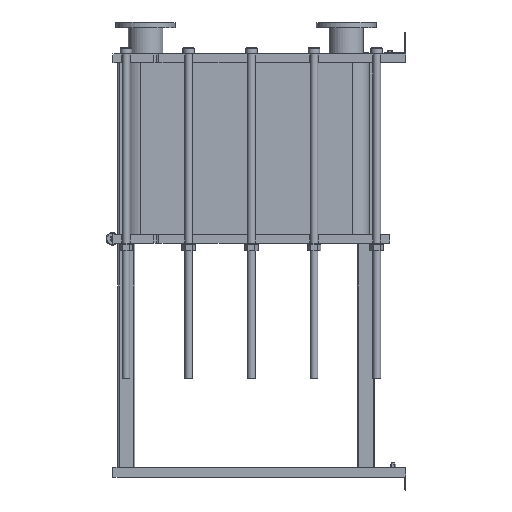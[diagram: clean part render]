
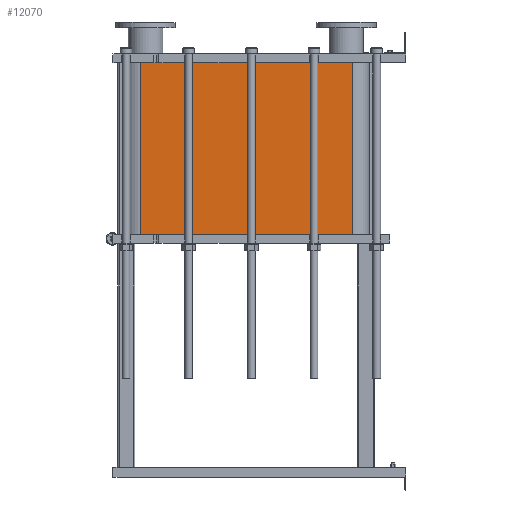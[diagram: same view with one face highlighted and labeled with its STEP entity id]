
A CAD part, left-side view. The second image highlights one B-rep face of the part: STEP entity #12070.
In plain terms, the highlighted planar face has unit normal (-1, 0, 0).
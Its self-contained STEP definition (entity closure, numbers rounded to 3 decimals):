
#1064=LINE('',#21140,#2164);
#1065=LINE('',#21144,#2165);
#1066=LINE('',#21146,#2166);
#1067=LINE('',#21147,#2167);
#2164=VECTOR('',#15790,10.);
#2165=VECTOR('',#15795,10.);
#2166=VECTOR('',#15796,10.);
#2167=VECTOR('',#15797,10.);
#3304=FACE_OUTER_BOUND('',#4091,.T.);
#4091=EDGE_LOOP('',(#9793,#9794,#9795,#9796));
#5677=VERTEX_POINT('',#21137);
#5678=VERTEX_POINT('',#21139);
#5679=VERTEX_POINT('',#21143);
#5680=VERTEX_POINT('',#21145);
#7118=EDGE_CURVE('',#5678,#5677,#1064,.T.);
#7120=EDGE_CURVE('',#5677,#5679,#1065,.T.);
#7121=EDGE_CURVE('',#5680,#5679,#1066,.T.);
#7122=EDGE_CURVE('',#5680,#5678,#1067,.T.);
#9793=ORIENTED_EDGE('',*,*,#7120,.T.);
#9794=ORIENTED_EDGE('',*,*,#7121,.F.);
#9795=ORIENTED_EDGE('',*,*,#7122,.T.);
#9796=ORIENTED_EDGE('',*,*,#7118,.T.);
#11441=PLANE('',#13191);
#12070=ADVANCED_FACE('',(#3304),#11441,.T.);
#13191=AXIS2_PLACEMENT_3D('',#21142,#15793,#15794);
#15790=DIRECTION('',(0.,0.,-1.));
#15793=DIRECTION('center_axis',(-1.,0.,0.));
#15794=DIRECTION('ref_axis',(0.,1.,0.));
#15795=DIRECTION('',(0.,-1.,0.));
#15796=DIRECTION('',(0.,0.,-1.));
#15797=DIRECTION('',(0.,1.,0.));
#21137=CARTESIAN_POINT('',(-248.152,1243.818,-807.3));
#21139=CARTESIAN_POINT('',(-248.152,1243.818,0.));
#21140=CARTESIAN_POINT('',(-248.152,1243.818,0.));
#21142=CARTESIAN_POINT('Origin',(-248.152,251.818,0.));
#21143=CARTESIAN_POINT('',(-248.152,251.818,-807.3));
#21144=CARTESIAN_POINT('',(-248.152,499.818,-807.3));
#21145=CARTESIAN_POINT('',(-248.152,251.818,0.));
#21146=CARTESIAN_POINT('',(-248.152,251.818,0.));
#21147=CARTESIAN_POINT('',(-248.152,251.818,0.));
